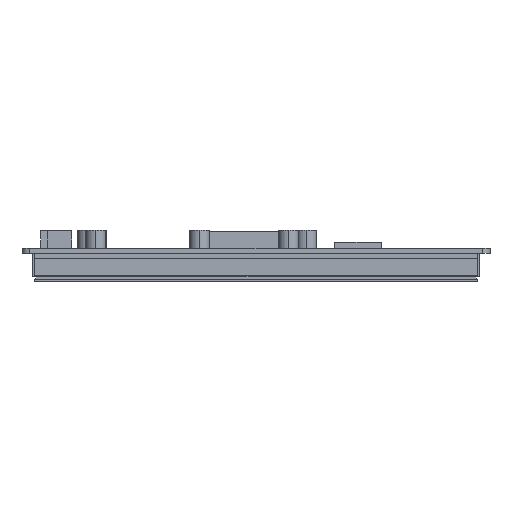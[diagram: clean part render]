
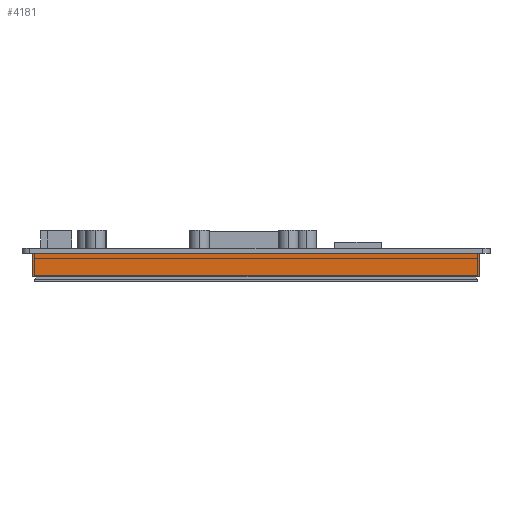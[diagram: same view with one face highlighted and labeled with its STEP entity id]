
A CAD part, front view. The second image highlights one B-rep face of the part: STEP entity #4181.
In plain terms, the highlighted planar face has unit normal (0, -1, 0).
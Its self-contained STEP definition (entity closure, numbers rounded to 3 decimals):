
#675=DIRECTION('',(-1.,0.,0.));
#676=VECTOR('',#675,15.25);
#677=CARTESIAN_POINT('',(71.003,-92.049,-1.6));
#678=LINE('',#677,#676);
#691=DIRECTION('',(-1.,0.,0.));
#692=VECTOR('',#691,48.006);
#693=CARTESIAN_POINT('',(50.673,-92.049,-1.6));
#694=LINE('',#693,#692);
#707=DIRECTION('',(-1.,0.,0.));
#708=VECTOR('',#707,48.26);
#709=CARTESIAN_POINT('',(-2.413,-92.049,-1.6));
#710=LINE('',#709,#708);
#723=DIRECTION('',(-1.,0.,0.));
#724=VECTOR('',#723,15.244);
#725=CARTESIAN_POINT('',(-55.753,-92.049,-1.6));
#726=LINE('',#725,#724);
#1283=DIRECTION('',(0.,0.,-1.));
#1284=VECTOR('',#1283,7.5);
#1285=CARTESIAN_POINT('',(71.003,-92.049,-1.6));
#1286=LINE('',#1285,#1284);
#1295=DIRECTION('',(0.,0.,-1.));
#1296=VECTOR('',#1295,7.5);
#1297=CARTESIAN_POINT('',(-70.997,-92.049,-1.6));
#1298=LINE('',#1297,#1296);
#1299=DIRECTION('',(-1.,0.,0.));
#1300=VECTOR('',#1299,142.);
#1301=CARTESIAN_POINT('',(71.003,-92.049,-9.1));
#1302=LINE('',#1301,#1300);
#1523=DIRECTION('',(-1.,0.,0.));
#1524=VECTOR('',#1523,5.08);
#1525=CARTESIAN_POINT('',(-50.673,-92.049,-1.6));
#1526=LINE('',#1525,#1524);
#1531=DIRECTION('',(-1.,0.,0.));
#1532=VECTOR('',#1531,5.08);
#1533=CARTESIAN_POINT('',(2.667,-92.049,-1.6));
#1534=LINE('',#1533,#1532);
#1539=DIRECTION('',(-1.,0.,0.));
#1540=VECTOR('',#1539,5.08);
#1541=CARTESIAN_POINT('',(55.753,-92.049,-1.6));
#1542=LINE('',#1541,#1540);
#2769=CARTESIAN_POINT('',(71.003,-92.049,-9.1));
#2770=CARTESIAN_POINT('',(-70.997,-92.049,-9.1));
#2771=VERTEX_POINT('',#2769);
#2772=VERTEX_POINT('',#2770);
#2785=CARTESIAN_POINT('',(71.003,-92.049,-1.6));
#2786=CARTESIAN_POINT('',(55.753,-92.049,-1.6));
#2787=VERTEX_POINT('',#2785);
#2788=VERTEX_POINT('',#2786);
#2789=CARTESIAN_POINT('',(50.673,-92.049,-1.6));
#2790=CARTESIAN_POINT('',(2.667,-92.049,-1.6));
#2791=VERTEX_POINT('',#2789);
#2792=VERTEX_POINT('',#2790);
#2793=CARTESIAN_POINT('',(-2.413,-92.049,-1.6));
#2794=CARTESIAN_POINT('',(-50.673,-92.049,-1.6));
#2795=VERTEX_POINT('',#2793);
#2796=VERTEX_POINT('',#2794);
#2797=CARTESIAN_POINT('',(-55.753,-92.049,-1.6));
#2798=CARTESIAN_POINT('',(-70.997,-92.049,-1.6));
#2799=VERTEX_POINT('',#2797);
#2800=VERTEX_POINT('',#2798);
#4158=CARTESIAN_POINT('',(71.003,-92.049,-1.6));
#4159=DIRECTION('',(0.,-1.,0.));
#4160=DIRECTION('',(-1.,0.,0.));
#4161=AXIS2_PLACEMENT_3D('',#4158,#4159,#4160);
#4162=PLANE('',#4161);
#4163=ORIENTED_EDGE('',*,*,#3371,.F.);
#4165=ORIENTED_EDGE('',*,*,#4164,.T.);
#4167=ORIENTED_EDGE('',*,*,#4166,.T.);
#4169=ORIENTED_EDGE('',*,*,#4168,.F.);
#4170=ORIENTED_EDGE('',*,*,#3395,.F.);
#4172=ORIENTED_EDGE('',*,*,#4171,.F.);
#4173=ORIENTED_EDGE('',*,*,#3387,.F.);
#4175=ORIENTED_EDGE('',*,*,#4174,.F.);
#4176=ORIENTED_EDGE('',*,*,#3379,.F.);
#4178=ORIENTED_EDGE('',*,*,#4177,.F.);
#4179=EDGE_LOOP('',(#4163,#4165,#4167,#4169,#4170,#4172,#4173,#4175,#4176,
#4178));
#4180=FACE_OUTER_BOUND('',#4179,.F.);
#3371=EDGE_CURVE('',#2787,#2788,#678,.T.);
#3379=EDGE_CURVE('',#2791,#2792,#694,.T.);
#3387=EDGE_CURVE('',#2795,#2796,#710,.T.);
#3395=EDGE_CURVE('',#2799,#2800,#726,.T.);
#4164=EDGE_CURVE('',#2787,#2771,#1286,.T.);
#4166=EDGE_CURVE('',#2771,#2772,#1302,.T.);
#4168=EDGE_CURVE('',#2800,#2772,#1298,.T.);
#4171=EDGE_CURVE('',#2796,#2799,#1526,.T.);
#4174=EDGE_CURVE('',#2792,#2795,#1534,.T.);
#4177=EDGE_CURVE('',#2788,#2791,#1542,.T.);
#4181=ADVANCED_FACE('',(#4180),#4162,.T.);
